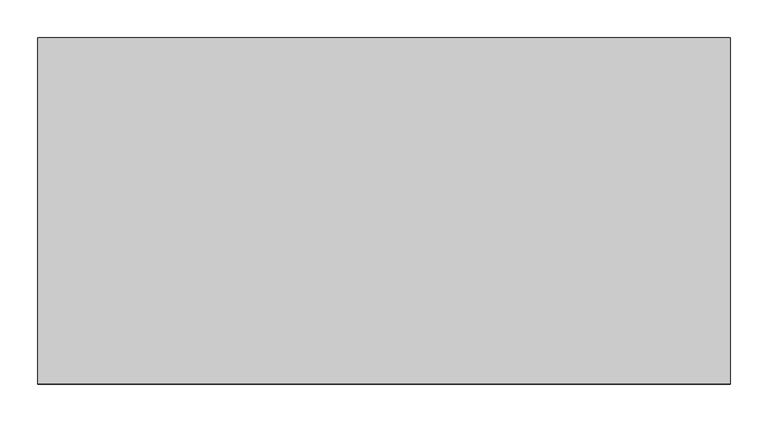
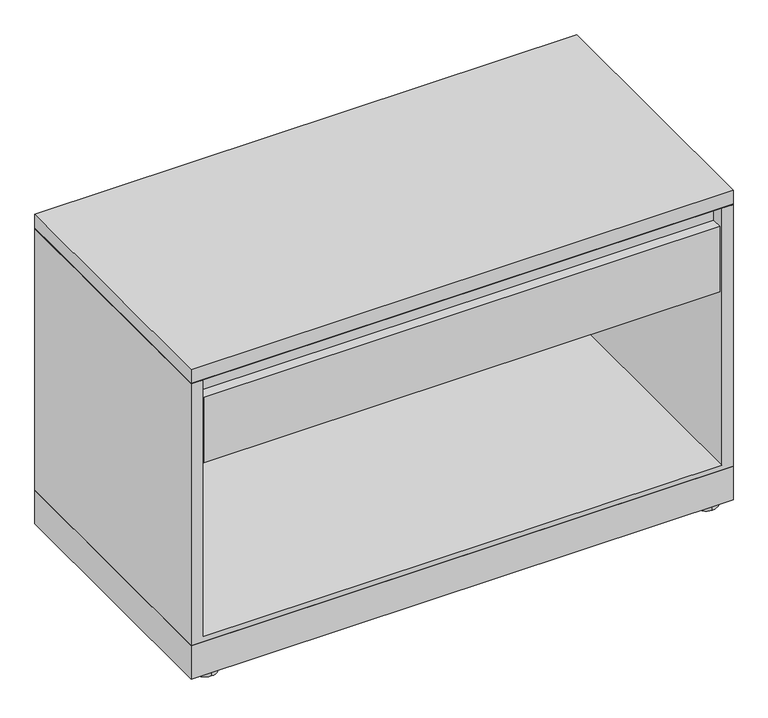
"""IFC4 building model written with IfcOpenShell, lengths in millimetres: furniture geometry, Steelcase - Universal Storage - Lateral File - 1.5 High - Flush Steel : Drawer/Open - 18D x 36W."""

from ifc_helpers import new_model, si_unit, point, frame, frame_2d, origin, origin_with_axes, place, context, project, spatial, polyline, circle_curve, trimmed, segment, composite_curve, outline, extrude, faceted_brep, source, transform, mapped, element, save


def furniture_fcecdb83(model_context):
    return source(origin(), model_context, "Body", "SolidModel", [
        extrude(outline(polyline([(914.4, 457.2), (914.4, 0.0), (0.0, 0.0), (0.0, 457.2), (914.4, 457.2)])), frame((0.0, 0.0, 6.3500002), z_axis=(0.0, 0.0, 1.0), x_axis=(1.0, 0.0, 0.0)), (0.0, 0.0, 1.0), 59.6899998),
        extrude(outline(composite_curve([segment(trimmed(circle_curve(frame_2d((879.7290058, 434.8633666)), 20.32), [point((879.7290058, 414.5433666))], [point((879.7290058, 455.1833666))], False, "CARTESIAN"), True, "CONTINUOUS"), segment(trimmed(circle_curve(frame_2d((879.7290058, 434.8633666)), 20.32), [point((879.7290058, 455.1833666))], [point((879.7290058, 414.5433666))], False, "CARTESIAN"), True, "CONTINUOUS")], self_intersect=False)), origin_with_axes(), (0.0, 0.0, 1.0), 6.3500002),
        extrude(outline(composite_curve([segment(trimmed(circle_curve(frame_2d((879.7290058, 20.7491455)), 20.32), [point((879.7290058, 0.4291455))], [point((879.7290058, 41.0691455))], False, "CARTESIAN"), True, "CONTINUOUS"), segment(trimmed(circle_curve(frame_2d((879.7290058, 20.7491455)), 20.32), [point((879.7290058, 41.0691455))], [point((879.7290058, 0.4291455))], False, "CARTESIAN"), True, "CONTINUOUS")], self_intersect=False)), origin_with_axes(), (0.0, 0.0, 1.0), 6.3500002),
        extrude(outline(composite_curve([segment(trimmed(circle_curve(frame_2d((34.29, 434.8633666)), 20.32), [point((34.29, 455.1833666))], [point((34.29, 414.5433666))], False, "CARTESIAN"), True, "CONTINUOUS"), segment(trimmed(circle_curve(frame_2d((34.29, 434.8633666)), 20.32), [point((34.29, 414.5433666))], [point((34.29, 455.1833666))], False, "CARTESIAN"), True, "CONTINUOUS")], self_intersect=False)), origin_with_axes(), (0.0, 0.0, 1.0), 6.3500002),
        extrude(outline(composite_curve([segment(trimmed(circle_curve(frame_2d((34.29, 20.7491455)), 20.32), [point((34.29, 41.0691455))], [point((34.29, 0.4291455))], False, "CARTESIAN"), True, "CONTINUOUS"), segment(trimmed(circle_curve(frame_2d((34.29, 20.7491455)), 20.32), [point((34.29, 0.4291455))], [point((34.29, 41.0691455))], False, "CARTESIAN"), True, "CONTINUOUS")], self_intersect=False)), origin_with_axes(), (0.0, 0.0, 1.0), 6.3500002),
        extrude(outline(polyline([(437.7944128, 396.7988176), (437.7944128, 410.7687861), (440.969412, 410.7687861), (440.969412, 371.5257963), (26.822418, 371.5257963), (26.822418, 396.7988176), (437.7944128, 396.7988176)])), frame((22.0472, 0.0, 0.0), z_axis=(1.0, 0.0, 0.0), x_axis=(0.0, 1.0, 0.0)), (0.0, 0.0, 1.0), 870.3056),
        extrude(outline(polyline([(1.45e-05, 534.0350121), (457.2, 534.0350121), (456.4379879, 533.273), (0.7620266, 533.273), (1.45e-05, 534.0350121)])), frame((0.0, 0.0, 0.0), z_axis=(1.0, 0.0, 0.0), x_axis=(0.0, 1.0, 0.0)), (0.0, 0.0, 1.0), 914.4),
        extrude(outline(polyline([(914.4, 457.2), (914.4, 0.0), (0.0, 0.0), (0.0, 457.2), (914.4, 457.2)])), frame((0.0, 0.0, 534.0350121), z_axis=(0.0, 0.0, 1.0), x_axis=(1.0, 0.0, 0.0)), (0.0, 0.0, 1.0), 24.6379729),
        faceted_brep([(914.4, 0.0, 66.04), (914.4, 457.2, 66.04), (914.4, 457.2, 533.273), (914.4, 0.0, 533.273), (0.0, 0.0, 533.273), (0.0, 457.2, 533.273), (0.0, 457.2, 66.04), (0.0, 0.0, 66.04), (895.35, 0.0, 533.273), (895.35, 0.0, 75.1586), (19.05, 0.0, 75.1586), (19.05, 0.0, 533.273), (19.05, 454.0249999, 533.273), (895.35, 454.0249999, 533.273), (19.05, 454.0249999, 75.1586), (895.35, 454.0249999, 75.1586)], [[[0, 1, 2, 3]], [[4, 5, 6, 7]], [[0, 3, 8, 9, 10, 11, 4, 7]], [[2, 1, 6, 5]], [[3, 2, 5, 4, 11, 12, 13, 8]], [[12, 14, 15, 13]], [[14, 12, 11, 10]], [[13, 15, 9, 8]], [[1, 0, 7, 6]], [[10, 9, 15, 14]]]),
        extrude(outline(polyline([(23.6541043, 384.1241916), (1.5178885, 384.1241916), (1.5178885, 501.1928089), (19.3741023, 501.1928089), (19.3741023, 531.799807), (23.6541043, 531.799807), (23.6541043, 384.1241916)])), frame((22.0472, 0.0, 0.0), z_axis=(1.0, 0.0, 0.0), x_axis=(0.0, 1.0, 0.0)), (0.0, 0.0, 1.0), 870.3056),
    ])


if __name__ == "__main__":
    model = new_model("IFC4")
    model_context = context("Model", 3, world=origin())
    ifc_project = project(units=[si_unit("LENGTHUNIT", "METRE", prefix="MILLI")], contexts=[model_context])
    site = spatial("IfcSite", under=ifc_project)
    building = spatial("IfcBuilding", under=site)
    placement = place(None, origin())
    furniture_shape = furniture_fcecdb83(model_context)
    element("IfcFurniture", 1, ObjectType="Steelcase - Universal Storage - Lateral File - 1.5 High - Flush Steel : Drawer/Open - 18D x 36W", at=placement, inside=building, context=model_context, shape_type="MappedRepresentation", body=[
        mapped(furniture_shape, transform((0.0, 0.0, 0.0), x_axis=(1.0, 0.0, 0.0), y_axis=(0.0, 1.0, 0.0), z_axis=(0.0, 0.0, 1.0))),
    ])
    save(model, "model.ifc")
